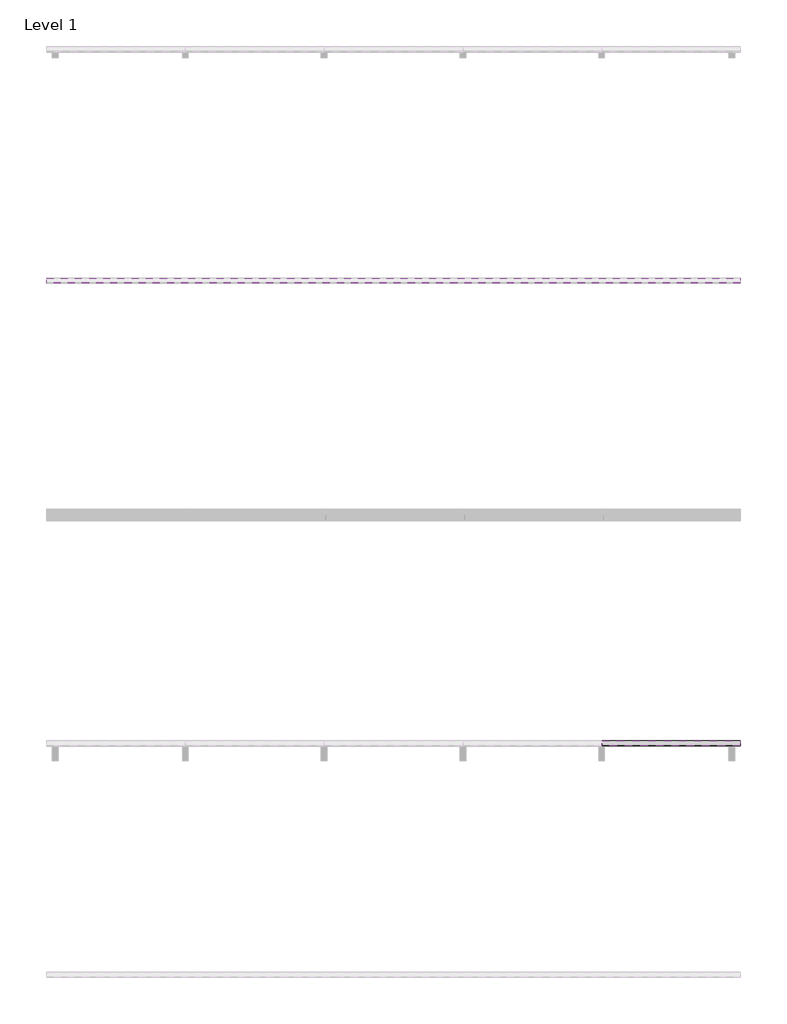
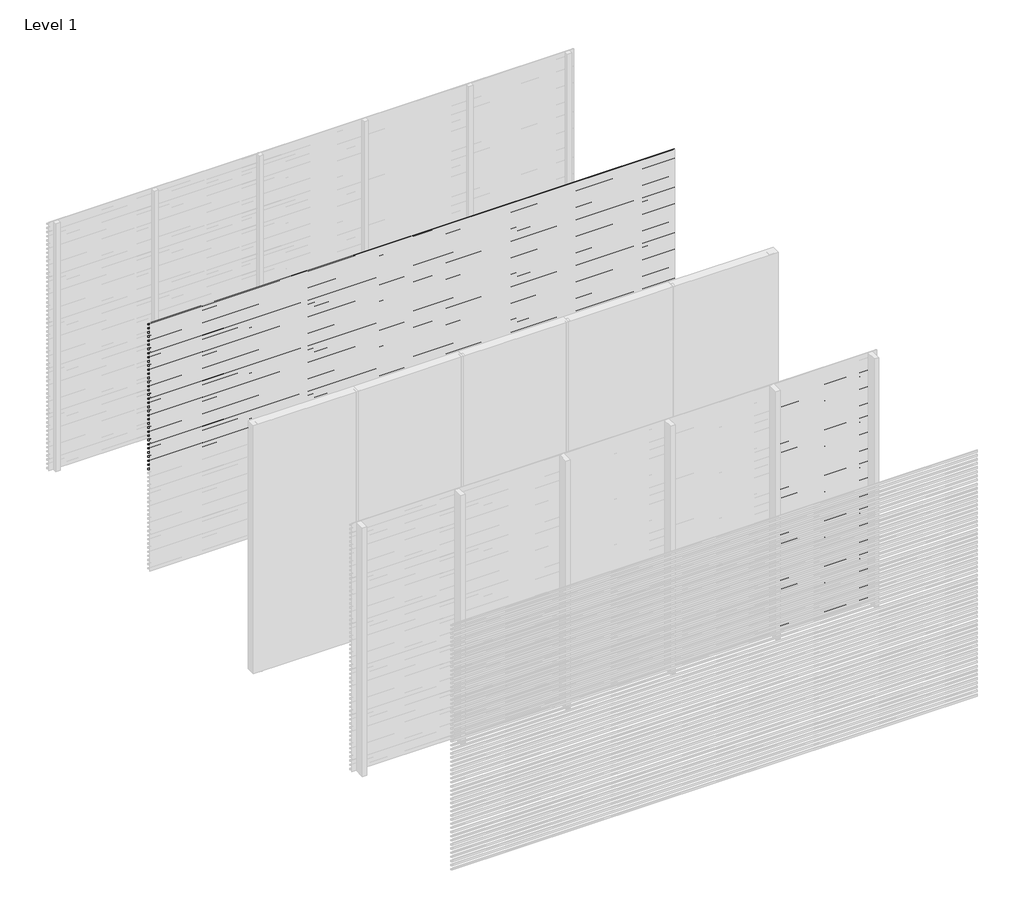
# One storey, part 5 of 16: 92 proxies.
"""IFC4 building model written with IfcOpenShell, lengths in millimetres."""

from ifc_helpers import new_model, si_unit, frame, origin, place, context, project, spatial, polyline, outline, extrude, element, save

model = new_model("IFC4")

# Units and contexts
model_context = context("Model", 3, world=origin())
ifc_project = project(units=[si_unit("LENGTHUNIT", "METRE", prefix="MILLI")], contexts=[model_context])

# Site, building, storey
site = spatial("IfcSite", under=ifc_project)
building = spatial("IfcBuilding", under=site)
storey = spatial("IfcBuildingStorey", under=building, Name="Level 1", Elevation=0.0)

# Proxies
placement = place(None, origin())
element("IfcBuildingElementProxy", 1, Name="Wall Sweeps", at=placement, inside=storey, context=model_context, shape_type="SweptSolid", body=[
    extrude(outline(polyline([(-13995.0, 3000.0), (-13995.0, 2989.6352854), (-13954.0, 2965.0), (-13954.0, 2950.0), (-13997.0, 2975.8370066), (-13997.0, 3000.0), (-13995.0, 3000.0)])), frame((0.0, 0.0, 0.0), z_axis=(1.0, 0.0, 0.0), x_axis=(0.0, 1.0, 0.0)), (0.0, 0.0, 1.0), 6000.0),
])
element("IfcBuildingElementProxy", 2, Name="Wall Sweeps", at=placement, inside=storey, context=model_context, shape_type="SweptSolid", body=[
    extrude(outline(polyline([(-13995.0, 2950.0), (-13995.0, 2939.6352854), (-13954.0, 2915.0), (-13954.0, 2900.0), (-13997.0, 2925.8370066), (-13997.0, 2950.0), (-13995.0, 2950.0)])), frame((0.0, 0.0, 0.0), z_axis=(1.0, 0.0, 0.0), x_axis=(0.0, 1.0, 0.0)), (0.0, 0.0, 1.0), 6000.0),
])
element("IfcBuildingElementProxy", 3, Name="Wall Sweeps", at=placement, inside=storey, context=model_context, shape_type="SweptSolid", body=[
    extrude(outline(polyline([(-13995.0, 2900.0), (-13995.0, 2889.6352854), (-13954.0, 2865.0), (-13954.0, 2850.0), (-13997.0, 2875.8370066), (-13997.0, 2900.0), (-13995.0, 2900.0)])), frame((0.0, 0.0, 0.0), z_axis=(1.0, 0.0, 0.0), x_axis=(0.0, 1.0, 0.0)), (0.0, 0.0, 1.0), 6000.0),
])
element("IfcBuildingElementProxy", 4, Name="Wall Sweeps", at=placement, inside=storey, context=model_context, shape_type="SweptSolid", body=[
    extrude(outline(polyline([(-13995.0, 2850.0), (-13995.0, 2839.6352854), (-13954.0, 2815.0), (-13954.0, 2800.0), (-13997.0, 2825.8370066), (-13997.0, 2850.0), (-13995.0, 2850.0)])), frame((0.0, 0.0, 0.0), z_axis=(1.0, 0.0, 0.0), x_axis=(0.0, 1.0, 0.0)), (0.0, 0.0, 1.0), 6000.0),
])
element("IfcBuildingElementProxy", 5, Name="Wall Sweeps", at=placement, inside=storey, context=model_context, shape_type="SweptSolid", body=[
    extrude(outline(polyline([(-13995.0, 2800.0), (-13995.0, 2789.6352854), (-13954.0, 2765.0), (-13954.0, 2750.0), (-13997.0, 2775.8370066), (-13997.0, 2800.0), (-13995.0, 2800.0)])), frame((0.0, 0.0, 0.0), z_axis=(1.0, 0.0, 0.0), x_axis=(0.0, 1.0, 0.0)), (0.0, 0.0, 1.0), 6000.0),
])
element("IfcBuildingElementProxy", 6, Name="Wall Sweeps", at=placement, inside=storey, context=model_context, shape_type="SweptSolid", body=[
    extrude(outline(polyline([(-13995.0, 2750.0), (-13995.0, 2739.6352854), (-13954.0, 2715.0), (-13954.0, 2700.0), (-13997.0, 2725.8370066), (-13997.0, 2750.0), (-13995.0, 2750.0)])), frame((0.0, 0.0, 0.0), z_axis=(1.0, 0.0, 0.0), x_axis=(0.0, 1.0, 0.0)), (0.0, 0.0, 1.0), 6000.0),
])
element("IfcBuildingElementProxy", 7, Name="Wall Sweeps", at=placement, inside=storey, context=model_context, shape_type="SweptSolid", body=[
    extrude(outline(polyline([(-13995.0, 2700.0), (-13995.0, 2689.6352854), (-13954.0, 2665.0), (-13954.0, 2650.0), (-13997.0, 2675.8370066), (-13997.0, 2700.0), (-13995.0, 2700.0)])), frame((0.0, 0.0, 0.0), z_axis=(1.0, 0.0, 0.0), x_axis=(0.0, 1.0, 0.0)), (0.0, 0.0, 1.0), 6000.0),
])
element("IfcBuildingElementProxy", 8, Name="Wall Sweeps", at=placement, inside=storey, context=model_context, shape_type="SweptSolid", body=[
    extrude(outline(polyline([(-13995.0, 2650.0), (-13995.0, 2639.6352854), (-13954.0, 2615.0), (-13954.0, 2600.0), (-13997.0, 2625.8370066), (-13997.0, 2650.0), (-13995.0, 2650.0)])), frame((0.0, 0.0, 0.0), z_axis=(1.0, 0.0, 0.0), x_axis=(0.0, 1.0, 0.0)), (0.0, 0.0, 1.0), 6000.0),
])
element("IfcBuildingElementProxy", 9, Name="Wall Sweeps", at=placement, inside=storey, context=model_context, shape_type="SweptSolid", body=[
    extrude(outline(polyline([(-13995.0, 2600.0), (-13995.0, 2589.6352854), (-13954.0, 2565.0), (-13954.0, 2550.0), (-13997.0, 2575.8370066), (-13997.0, 2600.0), (-13995.0, 2600.0)])), frame((0.0, 0.0, 0.0), z_axis=(1.0, 0.0, 0.0), x_axis=(0.0, 1.0, 0.0)), (0.0, 0.0, 1.0), 6000.0),
])
element("IfcBuildingElementProxy", 10, Name="Wall Sweeps", at=placement, inside=storey, context=model_context, shape_type="SweptSolid", body=[
    extrude(outline(polyline([(-13995.0, 2550.0), (-13995.0, 2539.6352854), (-13954.0, 2515.0), (-13954.0, 2500.0), (-13997.0, 2525.8370066), (-13997.0, 2550.0), (-13995.0, 2550.0)])), frame((0.0, 0.0, 0.0), z_axis=(1.0, 0.0, 0.0), x_axis=(0.0, 1.0, 0.0)), (0.0, 0.0, 1.0), 6000.0),
])
element("IfcBuildingElementProxy", 11, Name="Wall Sweeps", at=placement, inside=storey, context=model_context, shape_type="SweptSolid", body=[
    extrude(outline(polyline([(-13995.0, 2500.0), (-13995.0, 2489.6352854), (-13954.0, 2465.0), (-13954.0, 2450.0), (-13997.0, 2475.8370066), (-13997.0, 2500.0), (-13995.0, 2500.0)])), frame((0.0, 0.0, 0.0), z_axis=(1.0, 0.0, 0.0), x_axis=(0.0, 1.0, 0.0)), (0.0, 0.0, 1.0), 6000.0),
])
element("IfcBuildingElementProxy", 12, Name="Wall Sweeps", at=placement, inside=storey, context=model_context, shape_type="SweptSolid", body=[
    extrude(outline(polyline([(-13995.0, 2450.0), (-13995.0, 2439.6352854), (-13954.0, 2415.0), (-13954.0, 2400.0), (-13997.0, 2425.8370066), (-13997.0, 2450.0), (-13995.0, 2450.0)])), frame((0.0, 0.0, 0.0), z_axis=(1.0, 0.0, 0.0), x_axis=(0.0, 1.0, 0.0)), (0.0, 0.0, 1.0), 6000.0),
])
element("IfcBuildingElementProxy", 13, Name="Wall Sweeps", at=placement, inside=storey, context=model_context, shape_type="SweptSolid", body=[
    extrude(outline(polyline([(-13995.0, 2400.0), (-13995.0, 2389.6352854), (-13954.0, 2365.0), (-13954.0, 2350.0), (-13997.0, 2375.8370066), (-13997.0, 2400.0), (-13995.0, 2400.0)])), frame((0.0, 0.0, 0.0), z_axis=(1.0, 0.0, 0.0), x_axis=(0.0, 1.0, 0.0)), (0.0, 0.0, 1.0), 6000.0),
])
element("IfcBuildingElementProxy", 14, Name="Wall Sweeps", at=placement, inside=storey, context=model_context, shape_type="SweptSolid", body=[
    extrude(outline(polyline([(-13995.0, 2350.0), (-13995.0, 2339.6352854), (-13954.0, 2315.0), (-13954.0, 2300.0), (-13997.0, 2325.8370066), (-13997.0, 2350.0), (-13995.0, 2350.0)])), frame((0.0, 0.0, 0.0), z_axis=(1.0, 0.0, 0.0), x_axis=(0.0, 1.0, 0.0)), (0.0, 0.0, 1.0), 6000.0),
])
element("IfcBuildingElementProxy", 15, Name="Wall Sweeps", at=placement, inside=storey, context=model_context, shape_type="SweptSolid", body=[
    extrude(outline(polyline([(-13995.0, 2300.0), (-13995.0, 2289.6352854), (-13954.0, 2265.0), (-13954.0, 2250.0), (-13997.0, 2275.8370066), (-13997.0, 2300.0), (-13995.0, 2300.0)])), frame((0.0, 0.0, 0.0), z_axis=(1.0, 0.0, 0.0), x_axis=(0.0, 1.0, 0.0)), (0.0, 0.0, 1.0), 6000.0),
])
element("IfcBuildingElementProxy", 16, Name="Wall Sweeps", at=placement, inside=storey, context=model_context, shape_type="SweptSolid", body=[
    extrude(outline(polyline([(-13995.0, 2250.0), (-13995.0, 2239.6352854), (-13954.0, 2215.0), (-13954.0, 2200.0), (-13997.0, 2225.8370066), (-13997.0, 2250.0), (-13995.0, 2250.0)])), frame((0.0, 0.0, 0.0), z_axis=(1.0, 0.0, 0.0), x_axis=(0.0, 1.0, 0.0)), (0.0, 0.0, 1.0), 6000.0),
])
element("IfcBuildingElementProxy", 17, Name="Wall Sweeps", at=placement, inside=storey, context=model_context, shape_type="SweptSolid", body=[
    extrude(outline(polyline([(-13995.0, 2200.0), (-13995.0, 2189.6352854), (-13954.0, 2165.0), (-13954.0, 2150.0), (-13997.0, 2175.8370066), (-13997.0, 2200.0), (-13995.0, 2200.0)])), frame((0.0, 0.0, 0.0), z_axis=(1.0, 0.0, 0.0), x_axis=(0.0, 1.0, 0.0)), (0.0, 0.0, 1.0), 6000.0),
])
element("IfcBuildingElementProxy", 18, Name="Wall Sweeps", at=placement, inside=storey, context=model_context, shape_type="SweptSolid", body=[
    extrude(outline(polyline([(-13995.0, 2150.0), (-13995.0, 2139.6352854), (-13954.0, 2115.0), (-13954.0, 2100.0), (-13997.0, 2125.8370066), (-13997.0, 2150.0), (-13995.0, 2150.0)])), frame((0.0, 0.0, 0.0), z_axis=(1.0, 0.0, 0.0), x_axis=(0.0, 1.0, 0.0)), (0.0, 0.0, 1.0), 6000.0),
])
element("IfcBuildingElementProxy", 19, Name="Wall Sweeps", at=placement, inside=storey, context=model_context, shape_type="SweptSolid", body=[
    extrude(outline(polyline([(-13995.0, 2100.0), (-13995.0, 2089.6352854), (-13954.0, 2065.0), (-13954.0, 2050.0), (-13997.0, 2075.8370066), (-13997.0, 2100.0), (-13995.0, 2100.0)])), frame((0.0, 0.0, 0.0), z_axis=(1.0, 0.0, 0.0), x_axis=(0.0, 1.0, 0.0)), (0.0, 0.0, 1.0), 6000.0),
])
element("IfcBuildingElementProxy", 20, Name="Wall Sweeps", at=placement, inside=storey, context=model_context, shape_type="SweptSolid", body=[
    extrude(outline(polyline([(-13995.0, 2050.0), (-13995.0, 2039.6352854), (-13954.0, 2015.0), (-13954.0, 2000.0), (-13997.0, 2025.8370066), (-13997.0, 2050.0), (-13995.0, 2050.0)])), frame((0.0, 0.0, 0.0), z_axis=(1.0, 0.0, 0.0), x_axis=(0.0, 1.0, 0.0)), (0.0, 0.0, 1.0), 6000.0),
])
element("IfcBuildingElementProxy", 21, Name="Wall Sweeps", at=placement, inside=storey, context=model_context, shape_type="SweptSolid", body=[
    extrude(outline(polyline([(-13995.0, 2000.0), (-13995.0, 1989.6352854), (-13954.0, 1965.0), (-13954.0, 1950.0), (-13997.0, 1975.8370066), (-13997.0, 2000.0), (-13995.0, 2000.0)])), frame((0.0, 0.0, 0.0), z_axis=(1.0, 0.0, 0.0), x_axis=(0.0, 1.0, 0.0)), (0.0, 0.0, 1.0), 6000.0),
])
element("IfcBuildingElementProxy", 22, Name="Wall Sweeps", at=placement, inside=storey, context=model_context, shape_type="SweptSolid", body=[
    extrude(outline(polyline([(-13995.0, 1950.0), (-13995.0, 1939.6352854), (-13954.0, 1915.0), (-13954.0, 1900.0), (-13997.0, 1925.8370066), (-13997.0, 1950.0), (-13995.0, 1950.0)])), frame((0.0, 0.0, 0.0), z_axis=(1.0, 0.0, 0.0), x_axis=(0.0, 1.0, 0.0)), (0.0, 0.0, 1.0), 6000.0),
])
element("IfcBuildingElementProxy", 23, Name="Wall Sweeps", at=placement, inside=storey, context=model_context, shape_type="SweptSolid", body=[
    extrude(outline(polyline([(-13995.0, 1900.0), (-13995.0, 1889.6352854), (-13954.0, 1865.0), (-13954.0, 1850.0), (-13997.0, 1875.8370066), (-13997.0, 1900.0), (-13995.0, 1900.0)])), frame((0.0, 0.0, 0.0), z_axis=(1.0, 0.0, 0.0), x_axis=(0.0, 1.0, 0.0)), (0.0, 0.0, 1.0), 6000.0),
])
element("IfcBuildingElementProxy", 24, Name="Wall Sweeps", at=placement, inside=storey, context=model_context, shape_type="SweptSolid", body=[
    extrude(outline(polyline([(-13995.0, 1850.0), (-13995.0, 1839.6352854), (-13954.0, 1815.0), (-13954.0, 1800.0), (-13997.0, 1825.8370066), (-13997.0, 1850.0), (-13995.0, 1850.0)])), frame((0.0, 0.0, 0.0), z_axis=(1.0, 0.0, 0.0), x_axis=(0.0, 1.0, 0.0)), (0.0, 0.0, 1.0), 6000.0),
])
element("IfcBuildingElementProxy", 25, Name="Wall Sweeps", at=placement, inside=storey, context=model_context, shape_type="SweptSolid", body=[
    extrude(outline(polyline([(-13995.0, 1800.0), (-13995.0, 1789.6352854), (-13954.0, 1765.0), (-13954.0, 1750.0), (-13997.0, 1775.8370066), (-13997.0, 1800.0), (-13995.0, 1800.0)])), frame((0.0, 0.0, 0.0), z_axis=(1.0, 0.0, 0.0), x_axis=(0.0, 1.0, 0.0)), (0.0, 0.0, 1.0), 6000.0),
])
element("IfcBuildingElementProxy", 26, Name="Wall Sweeps", at=placement, inside=storey, context=model_context, shape_type="SweptSolid", body=[
    extrude(outline(polyline([(-13995.0, 1750.0), (-13995.0, 1739.6352854), (-13954.0, 1715.0), (-13954.0, 1700.0), (-13997.0, 1725.8370066), (-13997.0, 1750.0), (-13995.0, 1750.0)])), frame((0.0, 0.0, 0.0), z_axis=(1.0, 0.0, 0.0), x_axis=(0.0, 1.0, 0.0)), (0.0, 0.0, 1.0), 6000.0),
])
element("IfcBuildingElementProxy", 27, Name="Wall Sweeps", at=placement, inside=storey, context=model_context, shape_type="SweptSolid", body=[
    extrude(outline(polyline([(-13995.0, 1700.0), (-13995.0, 1689.6352854), (-13954.0, 1665.0), (-13954.0, 1650.0), (-13997.0, 1675.8370066), (-13997.0, 1700.0), (-13995.0, 1700.0)])), frame((0.0, 0.0, 0.0), z_axis=(1.0, 0.0, 0.0), x_axis=(0.0, 1.0, 0.0)), (0.0, 0.0, 1.0), 6000.0),
])
element("IfcBuildingElementProxy", 28, Name="Wall Sweeps", at=placement, inside=storey, context=model_context, shape_type="SweptSolid", body=[
    extrude(outline(polyline([(-13995.0, 1650.0), (-13995.0, 1639.6352854), (-13954.0, 1615.0), (-13954.0, 1600.0), (-13997.0, 1625.8370066), (-13997.0, 1650.0), (-13995.0, 1650.0)])), frame((0.0, 0.0, 0.0), z_axis=(1.0, 0.0, 0.0), x_axis=(0.0, 1.0, 0.0)), (0.0, 0.0, 1.0), 6000.0),
])
element("IfcBuildingElementProxy", 29, Name="Wall Sweeps", at=placement, inside=storey, context=model_context, shape_type="SweptSolid", body=[
    extrude(outline(polyline([(-13995.0, 1600.0), (-13995.0, 1589.6352854), (-13954.0, 1565.0), (-13954.0, 1550.0), (-13997.0, 1575.8370066), (-13997.0, 1600.0), (-13995.0, 1600.0)])), frame((0.0, 0.0, 0.0), z_axis=(1.0, 0.0, 0.0), x_axis=(0.0, 1.0, 0.0)), (0.0, 0.0, 1.0), 6000.0),
])
element("IfcBuildingElementProxy", 30, Name="Wall Sweeps", at=placement, inside=storey, context=model_context, shape_type="SweptSolid", body=[
    extrude(outline(polyline([(-13995.0, 1550.0), (-13995.0, 1539.6352854), (-13954.0, 1515.0), (-13954.0, 1500.0), (-13997.0, 1525.8370066), (-13997.0, 1550.0), (-13995.0, 1550.0)])), frame((0.0, 0.0, 0.0), z_axis=(1.0, 0.0, 0.0), x_axis=(0.0, 1.0, 0.0)), (0.0, 0.0, 1.0), 6000.0),
])
element("IfcBuildingElementProxy", 31, Name="Wall Sweeps", at=placement, inside=storey, context=model_context, shape_type="SweptSolid", body=[
    extrude(outline(polyline([(-13995.0, 1500.0), (-13995.0, 1489.6352854), (-13954.0, 1465.0), (-13954.0, 1450.0), (-13997.0, 1475.8370066), (-13997.0, 1500.0), (-13995.0, 1500.0)])), frame((0.0, 0.0, 0.0), z_axis=(1.0, 0.0, 0.0), x_axis=(0.0, 1.0, 0.0)), (0.0, 0.0, 1.0), 6000.0),
])
element("IfcBuildingElementProxy", 32, Name="Wall Sweeps", at=placement, inside=storey, context=model_context, shape_type="SweptSolid", body=[
    extrude(outline(polyline([(-13995.0, 1450.0), (-13995.0, 1439.6352854), (-13954.0, 1415.0), (-13954.0, 1400.0), (-13997.0, 1425.8370066), (-13997.0, 1450.0), (-13995.0, 1450.0)])), frame((0.0, 0.0, 0.0), z_axis=(1.0, 0.0, 0.0), x_axis=(0.0, 1.0, 0.0)), (0.0, 0.0, 1.0), 6000.0),
])
element("IfcBuildingElementProxy", 33, Name="Wall Sweeps", at=placement, inside=storey, context=model_context, shape_type="SweptSolid", body=[
    extrude(outline(polyline([(-13995.0, 1400.0), (-13995.0, 1389.6352854), (-13954.0, 1365.0), (-13954.0, 1350.0), (-13997.0, 1375.8370066), (-13997.0, 1400.0), (-13995.0, 1400.0)])), frame((0.0, 0.0, 0.0), z_axis=(1.0, 0.0, 0.0), x_axis=(0.0, 1.0, 0.0)), (0.0, 0.0, 1.0), 6000.0),
])
element("IfcBuildingElementProxy", 34, Name="Wall Sweeps", at=placement, inside=storey, context=model_context, shape_type="SweptSolid", body=[
    extrude(outline(polyline([(-13995.0, 1350.0), (-13995.0, 1339.6352854), (-13954.0, 1315.0), (-13954.0, 1300.0), (-13997.0, 1325.8370066), (-13997.0, 1350.0), (-13995.0, 1350.0)])), frame((0.0, 0.0, 0.0), z_axis=(1.0, 0.0, 0.0), x_axis=(0.0, 1.0, 0.0)), (0.0, 0.0, 1.0), 6000.0),
])
element("IfcBuildingElementProxy", 35, Name="Wall Sweeps", at=placement, inside=storey, context=model_context, shape_type="SweptSolid", body=[
    extrude(outline(polyline([(-13995.0, 1300.0), (-13995.0, 1289.6352854), (-13954.0, 1265.0), (-13954.0, 1250.0), (-13997.0, 1275.8370066), (-13997.0, 1300.0), (-13995.0, 1300.0)])), frame((0.0, 0.0, 0.0), z_axis=(1.0, 0.0, 0.0), x_axis=(0.0, 1.0, 0.0)), (0.0, 0.0, 1.0), 6000.0),
])
element("IfcBuildingElementProxy", 36, Name="Wall Sweeps", at=placement, inside=storey, context=model_context, shape_type="SweptSolid", body=[
    extrude(outline(polyline([(-13995.0, 1250.0), (-13995.0, 1239.6352854), (-13954.0, 1215.0), (-13954.0, 1200.0), (-13997.0, 1225.8370066), (-13997.0, 1250.0), (-13995.0, 1250.0)])), frame((0.0, 0.0, 0.0), z_axis=(1.0, 0.0, 0.0), x_axis=(0.0, 1.0, 0.0)), (0.0, 0.0, 1.0), 6000.0),
])
element("IfcBuildingElementProxy", 37, Name="Wall Sweeps", at=placement, inside=storey, context=model_context, shape_type="SweptSolid", body=[
    extrude(outline(polyline([(-17995.0, 2800.0), (-17995.0, 2789.6352854), (-17954.0, 2765.0), (-17954.0, 2750.0), (-17997.0, 2775.8370066), (-17997.0, 2800.0), (-17995.0, 2800.0)])), frame((4799.9999998, 0.0, 0.0), z_axis=(1.0, 0.0, 0.0), x_axis=(0.0, 1.0, 0.0)), (0.0, 0.0, 1.0), 1200.0000002),
])
element("IfcBuildingElementProxy", 38, Name="Wall Sweeps", at=placement, inside=storey, context=model_context, shape_type="SweptSolid", body=[
    extrude(outline(polyline([(-17995.0, 2750.0), (-17995.0, 2739.6352854), (-17954.0, 2715.0), (-17954.0, 2700.0), (-17997.0, 2725.8370066), (-17997.0, 2750.0), (-17995.0, 2750.0)])), frame((4799.9999998, 0.0, 0.0), z_axis=(1.0, 0.0, 0.0), x_axis=(0.0, 1.0, 0.0)), (0.0, 0.0, 1.0), 1200.0000002),
])
element("IfcBuildingElementProxy", 39, Name="Wall Sweeps", at=placement, inside=storey, context=model_context, shape_type="SweptSolid", body=[
    extrude(outline(polyline([(-17995.0, 2700.0), (-17995.0, 2689.6352854), (-17954.0, 2665.0), (-17954.0, 2650.0), (-17997.0, 2675.8370066), (-17997.0, 2700.0), (-17995.0, 2700.0)])), frame((4799.9999998, 0.0, 0.0), z_axis=(1.0, 0.0, 0.0), x_axis=(0.0, 1.0, 0.0)), (0.0, 0.0, 1.0), 1200.0000002),
])
element("IfcBuildingElementProxy", 40, Name="Wall Sweeps", at=placement, inside=storey, context=model_context, shape_type="SweptSolid", body=[
    extrude(outline(polyline([(-17995.0, 2650.0), (-17995.0, 2639.6352854), (-17954.0, 2615.0), (-17954.0, 2600.0), (-17997.0, 2625.8370066), (-17997.0, 2650.0), (-17995.0, 2650.0)])), frame((4799.9999998, 0.0, 0.0), z_axis=(1.0, 0.0, 0.0), x_axis=(0.0, 1.0, 0.0)), (0.0, 0.0, 1.0), 1200.0000002),
])
element("IfcBuildingElementProxy", 41, Name="Wall Sweeps", at=placement, inside=storey, context=model_context, shape_type="SweptSolid", body=[
    extrude(outline(polyline([(-17995.0, 2600.0), (-17995.0, 2589.6352854), (-17954.0, 2565.0), (-17954.0, 2550.0), (-17997.0, 2575.8370066), (-17997.0, 2600.0), (-17995.0, 2600.0)])), frame((4799.9999998, 0.0, 0.0), z_axis=(1.0, 0.0, 0.0), x_axis=(0.0, 1.0, 0.0)), (0.0, 0.0, 1.0), 1200.0000002),
])
element("IfcBuildingElementProxy", 42, Name="Wall Sweeps", at=placement, inside=storey, context=model_context, shape_type="SweptSolid", body=[
    extrude(outline(polyline([(-17995.0, 2550.0), (-17995.0, 2539.6352854), (-17954.0, 2515.0), (-17954.0, 2500.0), (-17997.0, 2525.8370066), (-17997.0, 2550.0), (-17995.0, 2550.0)])), frame((4799.9999998, 0.0, 0.0), z_axis=(1.0, 0.0, 0.0), x_axis=(0.0, 1.0, 0.0)), (0.0, 0.0, 1.0), 1200.0000002),
])
element("IfcBuildingElementProxy", 43, Name="Wall Sweeps", at=placement, inside=storey, context=model_context, shape_type="SweptSolid", body=[
    extrude(outline(polyline([(-17995.0, 2500.0), (-17995.0, 2489.6352854), (-17954.0, 2465.0), (-17954.0, 2450.0), (-17997.0, 2475.8370066), (-17997.0, 2500.0), (-17995.0, 2500.0)])), frame((4799.9999998, 0.0, 0.0), z_axis=(1.0, 0.0, 0.0), x_axis=(0.0, 1.0, 0.0)), (0.0, 0.0, 1.0), 1200.0000002),
])
element("IfcBuildingElementProxy", 44, Name="Wall Sweeps", at=placement, inside=storey, context=model_context, shape_type="SweptSolid", body=[
    extrude(outline(polyline([(-17995.0, 2450.0), (-17995.0, 2439.6352854), (-17954.0, 2415.0), (-17954.0, 2400.0), (-17997.0, 2425.8370066), (-17997.0, 2450.0), (-17995.0, 2450.0)])), frame((4799.9999998, 0.0, 0.0), z_axis=(1.0, 0.0, 0.0), x_axis=(0.0, 1.0, 0.0)), (0.0, 0.0, 1.0), 1200.0000002),
])
element("IfcBuildingElementProxy", 45, Name="Wall Sweeps", at=placement, inside=storey, context=model_context, shape_type="SweptSolid", body=[
    extrude(outline(polyline([(-17995.0, 2400.0), (-17995.0, 2389.6352854), (-17954.0, 2365.0), (-17954.0, 2350.0), (-17997.0, 2375.8370066), (-17997.0, 2400.0), (-17995.0, 2400.0)])), frame((4799.9999998, 0.0, 0.0), z_axis=(1.0, 0.0, 0.0), x_axis=(0.0, 1.0, 0.0)), (0.0, 0.0, 1.0), 1200.0000002),
])
element("IfcBuildingElementProxy", 46, Name="Wall Sweeps", at=placement, inside=storey, context=model_context, shape_type="SweptSolid", body=[
    extrude(outline(polyline([(-17995.0, 2350.0), (-17995.0, 2339.6352854), (-17954.0, 2315.0), (-17954.0, 2300.0), (-17997.0, 2325.8370066), (-17997.0, 2350.0), (-17995.0, 2350.0)])), frame((4799.9999998, 0.0, 0.0), z_axis=(1.0, 0.0, 0.0), x_axis=(0.0, 1.0, 0.0)), (0.0, 0.0, 1.0), 1200.0000002),
])
element("IfcBuildingElementProxy", 47, Name="Wall Sweeps", at=placement, inside=storey, context=model_context, shape_type="SweptSolid", body=[
    extrude(outline(polyline([(-17995.0, 2300.0), (-17995.0, 2289.6352854), (-17954.0, 2265.0), (-17954.0, 2250.0), (-17997.0, 2275.8370066), (-17997.0, 2300.0), (-17995.0, 2300.0)])), frame((4799.9999998, 0.0, 0.0), z_axis=(1.0, 0.0, 0.0), x_axis=(0.0, 1.0, 0.0)), (0.0, 0.0, 1.0), 1200.0000002),
])
element("IfcBuildingElementProxy", 48, Name="Wall Sweeps", at=placement, inside=storey, context=model_context, shape_type="SweptSolid", body=[
    extrude(outline(polyline([(-17995.0, 2250.0), (-17995.0, 2239.6352854), (-17954.0, 2215.0), (-17954.0, 2200.0), (-17997.0, 2225.8370066), (-17997.0, 2250.0), (-17995.0, 2250.0)])), frame((4799.9999998, 0.0, 0.0), z_axis=(1.0, 0.0, 0.0), x_axis=(0.0, 1.0, 0.0)), (0.0, 0.0, 1.0), 1200.0000002),
])
element("IfcBuildingElementProxy", 49, Name="Wall Sweeps", at=placement, inside=storey, context=model_context, shape_type="SweptSolid", body=[
    extrude(outline(polyline([(-17995.0, 2200.0), (-17995.0, 2189.6352854), (-17954.0, 2165.0), (-17954.0, 2150.0), (-17997.0, 2175.8370066), (-17997.0, 2200.0), (-17995.0, 2200.0)])), frame((4799.9999998, 0.0, 0.0), z_axis=(1.0, 0.0, 0.0), x_axis=(0.0, 1.0, 0.0)), (0.0, 0.0, 1.0), 1200.0000002),
])
element("IfcBuildingElementProxy", 50, Name="Wall Sweeps", at=placement, inside=storey, context=model_context, shape_type="SweptSolid", body=[
    extrude(outline(polyline([(-17995.0, 2150.0), (-17995.0, 2139.6352854), (-17954.0, 2115.0), (-17954.0, 2100.0), (-17997.0, 2125.8370066), (-17997.0, 2150.0), (-17995.0, 2150.0)])), frame((4799.9999998, 0.0, 0.0), z_axis=(1.0, 0.0, 0.0), x_axis=(0.0, 1.0, 0.0)), (0.0, 0.0, 1.0), 1200.0000002),
])
element("IfcBuildingElementProxy", 51, Name="Wall Sweeps", at=placement, inside=storey, context=model_context, shape_type="SweptSolid", body=[
    extrude(outline(polyline([(-17995.0, 2100.0), (-17995.0, 2089.6352854), (-17954.0, 2065.0), (-17954.0, 2050.0), (-17997.0, 2075.8370066), (-17997.0, 2100.0), (-17995.0, 2100.0)])), frame((4799.9999998, 0.0, 0.0), z_axis=(1.0, 0.0, 0.0), x_axis=(0.0, 1.0, 0.0)), (0.0, 0.0, 1.0), 1200.0000002),
])
element("IfcBuildingElementProxy", 52, Name="Wall Sweeps", at=placement, inside=storey, context=model_context, shape_type="SweptSolid", body=[
    extrude(outline(polyline([(-17995.0, 2050.0), (-17995.0, 2039.6352854), (-17954.0, 2015.0), (-17954.0, 2000.0), (-17997.0, 2025.8370066), (-17997.0, 2050.0), (-17995.0, 2050.0)])), frame((4799.9999998, 0.0, 0.0), z_axis=(1.0, 0.0, 0.0), x_axis=(0.0, 1.0, 0.0)), (0.0, 0.0, 1.0), 1200.0000002),
])
element("IfcBuildingElementProxy", 53, Name="Wall Sweeps", at=placement, inside=storey, context=model_context, shape_type="SweptSolid", body=[
    extrude(outline(polyline([(-17995.0, 2000.0), (-17995.0, 1989.6352854), (-17954.0, 1965.0), (-17954.0, 1950.0), (-17997.0, 1975.8370066), (-17997.0, 2000.0), (-17995.0, 2000.0)])), frame((4799.9999998, 0.0, 0.0), z_axis=(1.0, 0.0, 0.0), x_axis=(0.0, 1.0, 0.0)), (0.0, 0.0, 1.0), 1200.0000002),
])
element("IfcBuildingElementProxy", 54, Name="Wall Sweeps", at=placement, inside=storey, context=model_context, shape_type="SweptSolid", body=[
    extrude(outline(polyline([(-17995.0, 1950.0), (-17995.0, 1939.6352854), (-17954.0, 1915.0), (-17954.0, 1900.0), (-17997.0, 1925.8370066), (-17997.0, 1950.0), (-17995.0, 1950.0)])), frame((4799.9999998, 0.0, 0.0), z_axis=(1.0, 0.0, 0.0), x_axis=(0.0, 1.0, 0.0)), (0.0, 0.0, 1.0), 1200.0000002),
])
element("IfcBuildingElementProxy", 55, Name="Wall Sweeps", at=placement, inside=storey, context=model_context, shape_type="SweptSolid", body=[
    extrude(outline(polyline([(-17995.0, 1900.0), (-17995.0, 1889.6352854), (-17954.0, 1865.0), (-17954.0, 1850.0), (-17997.0, 1875.8370066), (-17997.0, 1900.0), (-17995.0, 1900.0)])), frame((4799.9999998, 0.0, 0.0), z_axis=(1.0, 0.0, 0.0), x_axis=(0.0, 1.0, 0.0)), (0.0, 0.0, 1.0), 1200.0000002),
])
element("IfcBuildingElementProxy", 56, Name="Wall Sweeps", at=placement, inside=storey, context=model_context, shape_type="SweptSolid", body=[
    extrude(outline(polyline([(-17995.0, 1850.0), (-17995.0, 1839.6352854), (-17954.0, 1815.0), (-17954.0, 1800.0), (-17997.0, 1825.8370066), (-17997.0, 1850.0), (-17995.0, 1850.0)])), frame((4799.9999998, 0.0, 0.0), z_axis=(1.0, 0.0, 0.0), x_axis=(0.0, 1.0, 0.0)), (0.0, 0.0, 1.0), 1200.0000002),
])
element("IfcBuildingElementProxy", 57, Name="Wall Sweeps", at=placement, inside=storey, context=model_context, shape_type="SweptSolid", body=[
    extrude(outline(polyline([(-17995.0, 1800.0), (-17995.0, 1789.6352854), (-17954.0, 1765.0), (-17954.0, 1750.0), (-17997.0, 1775.8370066), (-17997.0, 1800.0), (-17995.0, 1800.0)])), frame((4799.9999998, 0.0, 0.0), z_axis=(1.0, 0.0, 0.0), x_axis=(0.0, 1.0, 0.0)), (0.0, 0.0, 1.0), 1200.0000002),
])
element("IfcBuildingElementProxy", 58, Name="Wall Sweeps", at=placement, inside=storey, context=model_context, shape_type="SweptSolid", body=[
    extrude(outline(polyline([(-17995.0, 1750.0), (-17995.0, 1739.6352854), (-17954.0, 1715.0), (-17954.0, 1700.0), (-17997.0, 1725.8370066), (-17997.0, 1750.0), (-17995.0, 1750.0)])), frame((4799.9999998, 0.0, 0.0), z_axis=(1.0, 0.0, 0.0), x_axis=(0.0, 1.0, 0.0)), (0.0, 0.0, 1.0), 1200.0000002),
])
element("IfcBuildingElementProxy", 59, Name="Wall Sweeps", at=placement, inside=storey, context=model_context, shape_type="SweptSolid", body=[
    extrude(outline(polyline([(-17995.0, 1700.0), (-17995.0, 1689.6352854), (-17954.0, 1665.0), (-17954.0, 1650.0), (-17997.0, 1675.8370066), (-17997.0, 1700.0), (-17995.0, 1700.0)])), frame((4799.9999998, 0.0, 0.0), z_axis=(1.0, 0.0, 0.0), x_axis=(0.0, 1.0, 0.0)), (0.0, 0.0, 1.0), 1200.0000002),
])
element("IfcBuildingElementProxy", 60, Name="Wall Sweeps", at=placement, inside=storey, context=model_context, shape_type="SweptSolid", body=[
    extrude(outline(polyline([(-17995.0, 1650.0), (-17995.0, 1639.6352854), (-17954.0, 1615.0), (-17954.0, 1600.0), (-17997.0, 1625.8370066), (-17997.0, 1650.0), (-17995.0, 1650.0)])), frame((4799.9999998, 0.0, 0.0), z_axis=(1.0, 0.0, 0.0), x_axis=(0.0, 1.0, 0.0)), (0.0, 0.0, 1.0), 1200.0000002),
])
element("IfcBuildingElementProxy", 61, Name="Wall Sweeps", at=placement, inside=storey, context=model_context, shape_type="SweptSolid", body=[
    extrude(outline(polyline([(-17995.0, 1600.0), (-17995.0, 1589.6352854), (-17954.0, 1565.0), (-17954.0, 1550.0), (-17997.0, 1575.8370066), (-17997.0, 1600.0), (-17995.0, 1600.0)])), frame((4799.9999998, 0.0, 0.0), z_axis=(1.0, 0.0, 0.0), x_axis=(0.0, 1.0, 0.0)), (0.0, 0.0, 1.0), 1200.0000002),
])
element("IfcBuildingElementProxy", 62, Name="Wall Sweeps", at=placement, inside=storey, context=model_context, shape_type="SweptSolid", body=[
    extrude(outline(polyline([(-17995.0, 1550.0), (-17995.0, 1539.6352854), (-17954.0, 1515.0), (-17954.0, 1500.0), (-17997.0, 1525.8370066), (-17997.0, 1550.0), (-17995.0, 1550.0)])), frame((4799.9999998, 0.0, 0.0), z_axis=(1.0, 0.0, 0.0), x_axis=(0.0, 1.0, 0.0)), (0.0, 0.0, 1.0), 1200.0000002),
])
element("IfcBuildingElementProxy", 63, Name="Wall Sweeps", at=placement, inside=storey, context=model_context, shape_type="SweptSolid", body=[
    extrude(outline(polyline([(-17995.0, 1500.0), (-17995.0, 1489.6352854), (-17954.0, 1465.0), (-17954.0, 1450.0), (-17997.0, 1475.8370066), (-17997.0, 1500.0), (-17995.0, 1500.0)])), frame((4799.9999998, 0.0, 0.0), z_axis=(1.0, 0.0, 0.0), x_axis=(0.0, 1.0, 0.0)), (0.0, 0.0, 1.0), 1200.0000002),
])
element("IfcBuildingElementProxy", 64, Name="Wall Sweeps", at=placement, inside=storey, context=model_context, shape_type="SweptSolid", body=[
    extrude(outline(polyline([(-17995.0, 1450.0), (-17995.0, 1439.6352854), (-17954.0, 1415.0), (-17954.0, 1400.0), (-17997.0, 1425.8370066), (-17997.0, 1450.0), (-17995.0, 1450.0)])), frame((4799.9999998, 0.0, 0.0), z_axis=(1.0, 0.0, 0.0), x_axis=(0.0, 1.0, 0.0)), (0.0, 0.0, 1.0), 1200.0000002),
])
element("IfcBuildingElementProxy", 65, Name="Wall Sweeps", at=placement, inside=storey, context=model_context, shape_type="SweptSolid", body=[
    extrude(outline(polyline([(-17995.0, 1400.0), (-17995.0, 1389.6352854), (-17954.0, 1365.0), (-17954.0, 1350.0), (-17997.0, 1375.8370066), (-17997.0, 1400.0), (-17995.0, 1400.0)])), frame((4799.9999998, 0.0, 0.0), z_axis=(1.0, 0.0, 0.0), x_axis=(0.0, 1.0, 0.0)), (0.0, 0.0, 1.0), 1200.0000002),
])
element("IfcBuildingElementProxy", 66, Name="Wall Sweeps", at=placement, inside=storey, context=model_context, shape_type="SweptSolid", body=[
    extrude(outline(polyline([(-17995.0, 1350.0), (-17995.0, 1339.6352854), (-17954.0, 1315.0), (-17954.0, 1300.0), (-17997.0, 1325.8370066), (-17997.0, 1350.0), (-17995.0, 1350.0)])), frame((4799.9999998, 0.0, 0.0), z_axis=(1.0, 0.0, 0.0), x_axis=(0.0, 1.0, 0.0)), (0.0, 0.0, 1.0), 1200.0000002),
])
element("IfcBuildingElementProxy", 67, Name="Wall Sweeps", at=placement, inside=storey, context=model_context, shape_type="SweptSolid", body=[
    extrude(outline(polyline([(-17995.0, 1300.0), (-17995.0, 1289.6352854), (-17954.0, 1265.0), (-17954.0, 1250.0), (-17997.0, 1275.8370066), (-17997.0, 1300.0), (-17995.0, 1300.0)])), frame((4799.9999998, 0.0, 0.0), z_axis=(1.0, 0.0, 0.0), x_axis=(0.0, 1.0, 0.0)), (0.0, 0.0, 1.0), 1200.0000002),
])
element("IfcBuildingElementProxy", 68, Name="Wall Sweeps", at=placement, inside=storey, context=model_context, shape_type="SweptSolid", body=[
    extrude(outline(polyline([(-17995.0, 1250.0), (-17995.0, 1239.6352854), (-17954.0, 1215.0), (-17954.0, 1200.0), (-17997.0, 1225.8370066), (-17997.0, 1250.0), (-17995.0, 1250.0)])), frame((4799.9999998, 0.0, 0.0), z_axis=(1.0, 0.0, 0.0), x_axis=(0.0, 1.0, 0.0)), (0.0, 0.0, 1.0), 1200.0000002),
])
element("IfcBuildingElementProxy", 69, Name="Wall Sweeps", at=placement, inside=storey, context=model_context, shape_type="SweptSolid", body=[
    extrude(outline(polyline([(-17995.0, 1200.0), (-17995.0, 1189.6352854), (-17954.0, 1165.0), (-17954.0, 1150.0), (-17997.0, 1175.8370066), (-17997.0, 1200.0), (-17995.0, 1200.0)])), frame((4799.9999998, 0.0, 0.0), z_axis=(1.0, 0.0, 0.0), x_axis=(0.0, 1.0, 0.0)), (0.0, 0.0, 1.0), 1200.0000002),
])
element("IfcBuildingElementProxy", 70, Name="Wall Sweeps", at=placement, inside=storey, context=model_context, shape_type="SweptSolid", body=[
    extrude(outline(polyline([(-17995.0, 1150.0), (-17995.0, 1139.6352854), (-17954.0, 1115.0), (-17954.0, 1100.0), (-17997.0, 1125.8370066), (-17997.0, 1150.0), (-17995.0, 1150.0)])), frame((4799.9999998, 0.0, 0.0), z_axis=(1.0, 0.0, 0.0), x_axis=(0.0, 1.0, 0.0)), (0.0, 0.0, 1.0), 1200.0000002),
])
element("IfcBuildingElementProxy", 71, Name="Wall Sweeps", at=placement, inside=storey, context=model_context, shape_type="SweptSolid", body=[
    extrude(outline(polyline([(-17995.0, 1100.0), (-17995.0, 1089.6352854), (-17954.0, 1065.0), (-17954.0, 1050.0), (-17997.0, 1075.8370066), (-17997.0, 1100.0), (-17995.0, 1100.0)])), frame((4799.9999998, 0.0, 0.0), z_axis=(1.0, 0.0, 0.0), x_axis=(0.0, 1.0, 0.0)), (0.0, 0.0, 1.0), 1200.0000002),
])
element("IfcBuildingElementProxy", 72, Name="Wall Sweeps", at=placement, inside=storey, context=model_context, shape_type="SweptSolid", body=[
    extrude(outline(polyline([(-17995.0, 1050.0), (-17995.0, 1039.6352854), (-17954.0, 1015.0), (-17954.0, 1000.0), (-17997.0, 1025.8370066), (-17997.0, 1050.0), (-17995.0, 1050.0)])), frame((4799.9999998, 0.0, 0.0), z_axis=(1.0, 0.0, 0.0), x_axis=(0.0, 1.0, 0.0)), (0.0, 0.0, 1.0), 1200.0000002),
])
element("IfcBuildingElementProxy", 73, Name="Wall Sweeps", at=placement, inside=storey, context=model_context, shape_type="SweptSolid", body=[
    extrude(outline(polyline([(-17995.0, 1000.0), (-17995.0, 989.6352854), (-17954.0, 965.0), (-17954.0, 950.0), (-17997.0, 975.8370066), (-17997.0, 1000.0), (-17995.0, 1000.0)])), frame((4799.9999998, 0.0, 0.0), z_axis=(1.0, 0.0, 0.0), x_axis=(0.0, 1.0, 0.0)), (0.0, 0.0, 1.0), 1200.0000002),
])
element("IfcBuildingElementProxy", 74, Name="Wall Sweeps", at=placement, inside=storey, context=model_context, shape_type="SweptSolid", body=[
    extrude(outline(polyline([(-17995.0, 950.0), (-17995.0, 939.6352854), (-17954.0, 915.0), (-17954.0, 900.0), (-17997.0, 925.8370066), (-17997.0, 950.0), (-17995.0, 950.0)])), frame((4799.9999998, 0.0, 0.0), z_axis=(1.0, 0.0, 0.0), x_axis=(0.0, 1.0, 0.0)), (0.0, 0.0, 1.0), 1200.0000002),
])
element("IfcBuildingElementProxy", 75, Name="Wall Sweeps", at=placement, inside=storey, context=model_context, shape_type="SweptSolid", body=[
    extrude(outline(polyline([(-17995.0, 900.0), (-17995.0, 889.6352854), (-17954.0, 865.0), (-17954.0, 850.0), (-17997.0, 875.8370066), (-17997.0, 900.0), (-17995.0, 900.0)])), frame((4799.9999998, 0.0, 0.0), z_axis=(1.0, 0.0, 0.0), x_axis=(0.0, 1.0, 0.0)), (0.0, 0.0, 1.0), 1200.0000002),
])
element("IfcBuildingElementProxy", 76, Name="Wall Sweeps", at=placement, inside=storey, context=model_context, shape_type="SweptSolid", body=[
    extrude(outline(polyline([(-17995.0, 850.0), (-17995.0, 839.6352854), (-17954.0, 815.0), (-17954.0, 800.0), (-17997.0, 825.8370066), (-17997.0, 850.0), (-17995.0, 850.0)])), frame((4799.9999998, 0.0, 0.0), z_axis=(1.0, 0.0, 0.0), x_axis=(0.0, 1.0, 0.0)), (0.0, 0.0, 1.0), 1200.0000002),
])
element("IfcBuildingElementProxy", 77, Name="Wall Sweeps", at=placement, inside=storey, context=model_context, shape_type="SweptSolid", body=[
    extrude(outline(polyline([(-17995.0, 800.0), (-17995.0, 789.6352854), (-17954.0, 765.0), (-17954.0, 750.0), (-17997.0, 775.8370066), (-17997.0, 800.0), (-17995.0, 800.0)])), frame((4799.9999998, 0.0, 0.0), z_axis=(1.0, 0.0, 0.0), x_axis=(0.0, 1.0, 0.0)), (0.0, 0.0, 1.0), 1200.0000002),
])
element("IfcBuildingElementProxy", 78, Name="Wall Sweeps", at=placement, inside=storey, context=model_context, shape_type="SweptSolid", body=[
    extrude(outline(polyline([(-17995.0, 750.0), (-17995.0, 739.6352854), (-17954.0, 715.0), (-17954.0, 700.0), (-17997.0, 725.8370066), (-17997.0, 750.0), (-17995.0, 750.0)])), frame((4799.9999998, 0.0, 0.0), z_axis=(1.0, 0.0, 0.0), x_axis=(0.0, 1.0, 0.0)), (0.0, 0.0, 1.0), 1200.0000002),
])
element("IfcBuildingElementProxy", 79, Name="Wall Sweeps", at=placement, inside=storey, context=model_context, shape_type="SweptSolid", body=[
    extrude(outline(polyline([(-17995.0, 700.0), (-17995.0, 689.6352854), (-17954.0, 665.0), (-17954.0, 650.0), (-17997.0, 675.8370066), (-17997.0, 700.0), (-17995.0, 700.0)])), frame((4799.9999998, 0.0, 0.0), z_axis=(1.0, 0.0, 0.0), x_axis=(0.0, 1.0, 0.0)), (0.0, 0.0, 1.0), 1200.0000002),
])
element("IfcBuildingElementProxy", 80, Name="Wall Sweeps", at=placement, inside=storey, context=model_context, shape_type="SweptSolid", body=[
    extrude(outline(polyline([(-17995.0, 650.0), (-17995.0, 639.6352854), (-17954.0, 615.0), (-17954.0, 600.0), (-17997.0, 625.8370066), (-17997.0, 650.0), (-17995.0, 650.0)])), frame((4799.9999998, 0.0, 0.0), z_axis=(1.0, 0.0, 0.0), x_axis=(0.0, 1.0, 0.0)), (0.0, 0.0, 1.0), 1200.0000002),
])
element("IfcBuildingElementProxy", 81, Name="Wall Sweeps", at=placement, inside=storey, context=model_context, shape_type="SweptSolid", body=[
    extrude(outline(polyline([(-17995.0, 600.0), (-17995.0, 589.6352854), (-17954.0, 565.0), (-17954.0, 550.0), (-17997.0, 575.8370066), (-17997.0, 600.0), (-17995.0, 600.0)])), frame((4799.9999998, 0.0, 0.0), z_axis=(1.0, 0.0, 0.0), x_axis=(0.0, 1.0, 0.0)), (0.0, 0.0, 1.0), 1200.0000002),
])
element("IfcBuildingElementProxy", 82, Name="Wall Sweeps", at=placement, inside=storey, context=model_context, shape_type="SweptSolid", body=[
    extrude(outline(polyline([(-17995.0, 550.0), (-17995.0, 539.6352854), (-17954.0, 515.0), (-17954.0, 500.0), (-17997.0, 525.8370066), (-17997.0, 550.0), (-17995.0, 550.0)])), frame((4799.9999998, 0.0, 0.0), z_axis=(1.0, 0.0, 0.0), x_axis=(0.0, 1.0, 0.0)), (0.0, 0.0, 1.0), 1200.0000002),
])
element("IfcBuildingElementProxy", 83, Name="Wall Sweeps", at=placement, inside=storey, context=model_context, shape_type="SweptSolid", body=[
    extrude(outline(polyline([(-17995.0, 500.0), (-17995.0, 489.6352854), (-17954.0, 465.0), (-17954.0, 450.0), (-17997.0, 475.8370066), (-17997.0, 500.0), (-17995.0, 500.0)])), frame((4799.9999998, 0.0, 0.0), z_axis=(1.0, 0.0, 0.0), x_axis=(0.0, 1.0, 0.0)), (0.0, 0.0, 1.0), 1200.0000002),
])
element("IfcBuildingElementProxy", 84, Name="Wall Sweeps", at=placement, inside=storey, context=model_context, shape_type="SweptSolid", body=[
    extrude(outline(polyline([(-17995.0, 450.0), (-17995.0, 439.6352854), (-17954.0, 415.0), (-17954.0, 400.0), (-17997.0, 425.8370066), (-17997.0, 450.0), (-17995.0, 450.0)])), frame((4799.9999998, 0.0, 0.0), z_axis=(1.0, 0.0, 0.0), x_axis=(0.0, 1.0, 0.0)), (0.0, 0.0, 1.0), 1200.0000002),
])
element("IfcBuildingElementProxy", 85, Name="Wall Sweeps", at=placement, inside=storey, context=model_context, shape_type="SweptSolid", body=[
    extrude(outline(polyline([(-17995.0, 400.0), (-17995.0, 389.6352854), (-17954.0, 365.0), (-17954.0, 350.0), (-17997.0, 375.8370066), (-17997.0, 400.0), (-17995.0, 400.0)])), frame((4799.9999998, 0.0, 0.0), z_axis=(1.0, 0.0, 0.0), x_axis=(0.0, 1.0, 0.0)), (0.0, 0.0, 1.0), 1200.0000002),
])
element("IfcBuildingElementProxy", 86, Name="Wall Sweeps", at=placement, inside=storey, context=model_context, shape_type="SweptSolid", body=[
    extrude(outline(polyline([(-17995.0, 350.0), (-17995.0, 339.6352854), (-17954.0, 315.0), (-17954.0, 300.0), (-17997.0, 325.8370066), (-17997.0, 350.0), (-17995.0, 350.0)])), frame((4799.9999998, 0.0, 0.0), z_axis=(1.0, 0.0, 0.0), x_axis=(0.0, 1.0, 0.0)), (0.0, 0.0, 1.0), 1200.0000002),
])
element("IfcBuildingElementProxy", 87, Name="Wall Sweeps", at=placement, inside=storey, context=model_context, shape_type="SweptSolid", body=[
    extrude(outline(polyline([(-17995.0, 300.0), (-17995.0, 289.6352854), (-17954.0, 265.0), (-17954.0, 250.0), (-17997.0, 275.8370066), (-17997.0, 300.0), (-17995.0, 300.0)])), frame((4799.9999998, 0.0, 0.0), z_axis=(1.0, 0.0, 0.0), x_axis=(0.0, 1.0, 0.0)), (0.0, 0.0, 1.0), 1200.0000002),
])
element("IfcBuildingElementProxy", 88, Name="Wall Sweeps", at=placement, inside=storey, context=model_context, shape_type="SweptSolid", body=[
    extrude(outline(polyline([(-17995.0, 250.0), (-17995.0, 239.6352854), (-17954.0, 215.0), (-17954.0, 200.0), (-17997.0, 225.8370066), (-17997.0, 250.0), (-17995.0, 250.0)])), frame((4799.9999998, 0.0, 0.0), z_axis=(1.0, 0.0, 0.0), x_axis=(0.0, 1.0, 0.0)), (0.0, 0.0, 1.0), 1200.0000002),
])
element("IfcBuildingElementProxy", 89, Name="Wall Sweeps", at=placement, inside=storey, context=model_context, shape_type="SweptSolid", body=[
    extrude(outline(polyline([(-17995.0, 200.0), (-17995.0, 189.6352854), (-17954.0, 165.0), (-17954.0, 150.0), (-17997.0, 175.8370066), (-17997.0, 200.0), (-17995.0, 200.0)])), frame((4799.9999998, 0.0, 0.0), z_axis=(1.0, 0.0, 0.0), x_axis=(0.0, 1.0, 0.0)), (0.0, 0.0, 1.0), 1200.0000002),
])
element("IfcBuildingElementProxy", 90, Name="Wall Sweeps", at=placement, inside=storey, context=model_context, shape_type="SweptSolid", body=[
    extrude(outline(polyline([(-17995.0, 150.0), (-17995.0, 139.6352854), (-17954.0, 115.0), (-17954.0, 100.0), (-17997.0, 125.8370066), (-17997.0, 150.0), (-17995.0, 150.0)])), frame((4799.9999998, 0.0, 0.0), z_axis=(1.0, 0.0, 0.0), x_axis=(0.0, 1.0, 0.0)), (0.0, 0.0, 1.0), 1200.0000002),
])
element("IfcBuildingElementProxy", 91, Name="Wall Sweeps", at=placement, inside=storey, context=model_context, shape_type="SweptSolid", body=[
    extrude(outline(polyline([(-17995.0, 100.0), (-17995.0, 89.6352854), (-17954.0, 65.0), (-17954.0, 50.0), (-17997.0, 75.8370066), (-17997.0, 100.0), (-17995.0, 100.0)])), frame((4799.9999998, 0.0, 0.0), z_axis=(1.0, 0.0, 0.0), x_axis=(0.0, 1.0, 0.0)), (0.0, 0.0, 1.0), 1200.0000002),
])
element("IfcBuildingElementProxy", 92, Name="Wall Sweeps", at=placement, inside=storey, context=model_context, shape_type="SweptSolid", body=[
    extrude(outline(polyline([(-17995.0, 50.0), (-17995.0, 39.6352854), (-17954.0, 15.0), (-17954.0, 0.0), (-17997.0, 25.8370066), (-17997.0, 50.0), (-17995.0, 50.0)])), frame((4799.9999998, 0.0, 0.0), z_axis=(1.0, 0.0, 0.0), x_axis=(0.0, 1.0, 0.0)), (0.0, 0.0, 1.0), 1200.0000002),
])

save(model, "model.ifc")
